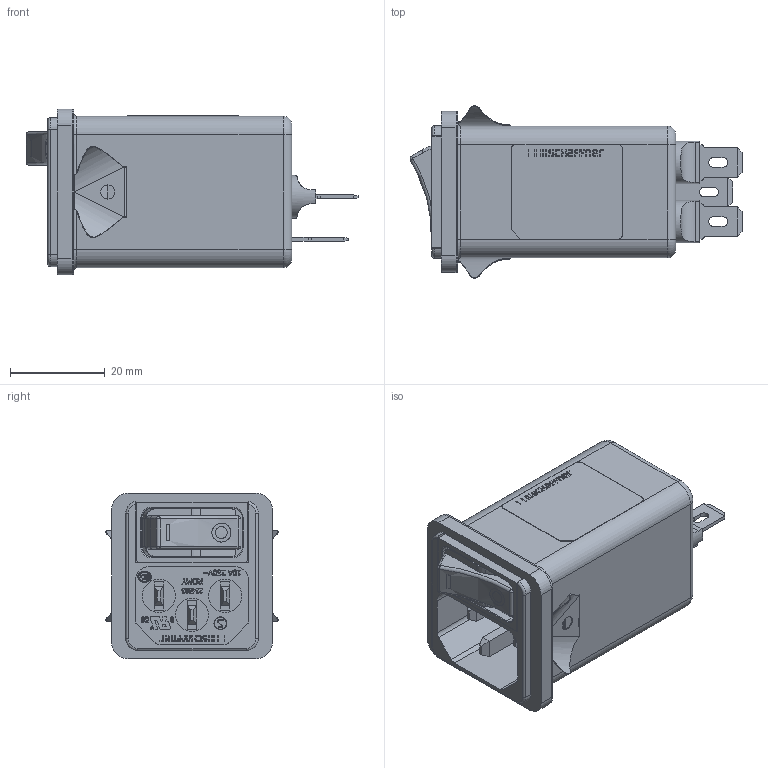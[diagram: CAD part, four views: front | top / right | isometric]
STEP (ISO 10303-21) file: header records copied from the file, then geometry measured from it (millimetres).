
FILE_DESCRIPTION(/* description */ ('naming raw material'),/* implementation_level */ '2;1');
FILE_NAME(/* name */ 'C:\SapWorkDir\Inventor\P01\ConvertTempPath\1005977_IPT_000.ipt.stp',/* time_stamp */ '2018-11-29T15:58:01+07:00',/* author */ ('Eakchai.Yodchai'),/* organization */ ('Schaffner Thailand Ltd.'),/* preprocessor_version */ 'ST-DEVELOPER v16.5',/* originating_system */ 'Autodesk Inventor 2017',/* authorisation */ '');
FILE_SCHEMA (('AUTOMOTIVE_DESIGN { 1 0 10303 214 3 1 1 }'));
Products named in the file (1): 1005977_IPT_000
Bounding box: 70.12 x 36.4 x 35 mm (x, y, z)
Volume: 39345.7 mm3; surface area: 18114.5 mm2
Topology: 1 solids, 10 shells, 2832 faces, 8077 edges, 5335 vertices
Faces by surface type: plane 2356, bspline 252, cylinder 186, torus 34, sphere 4
Full cylindrical faces by diameter (mm): 0.43 x1, 0.482 x1, 2.481 x1, 2.5 x3, 2.55 x2, 2.756 x1, 2.8 x1, 3 x2, 4 x1, 7 x3, 9 x2, 9.5 x2
Entity records: 95662 total; most frequent: CARTESIAN_POINT 20385, ORIENTED_EDGE 16096, DIRECTION 13175, EDGE_CURVE 8048, LINE 7069, VECTOR 7069, VERTEX_POINT 5326, AXIS2_PLACEMENT_3D 3053
